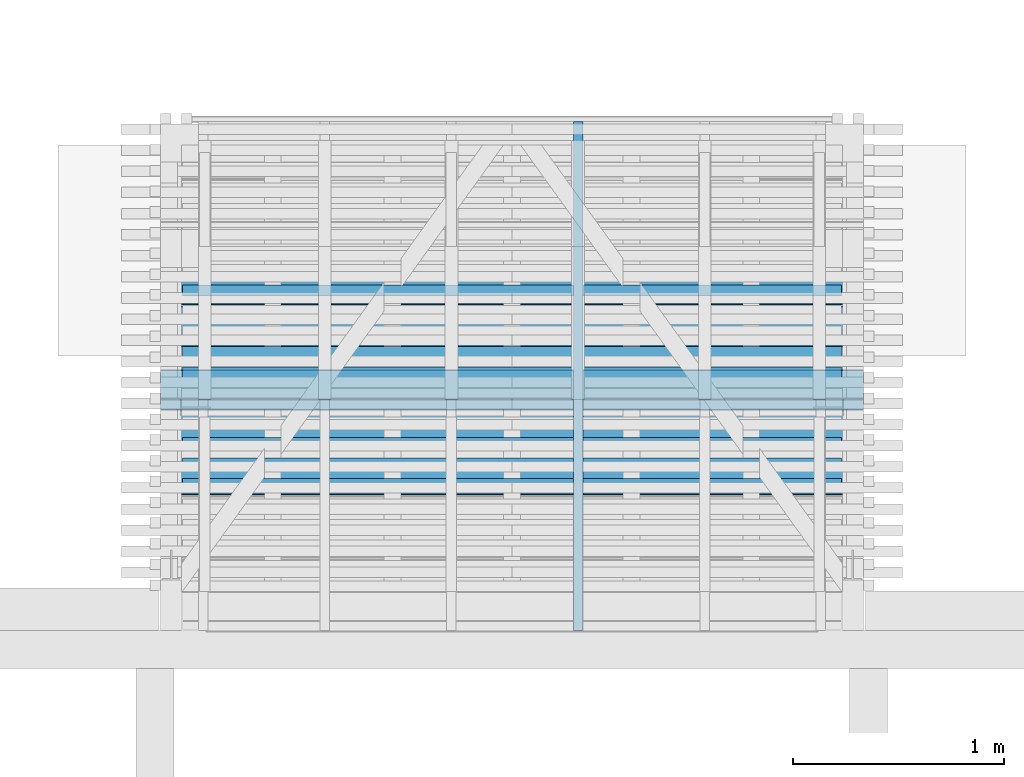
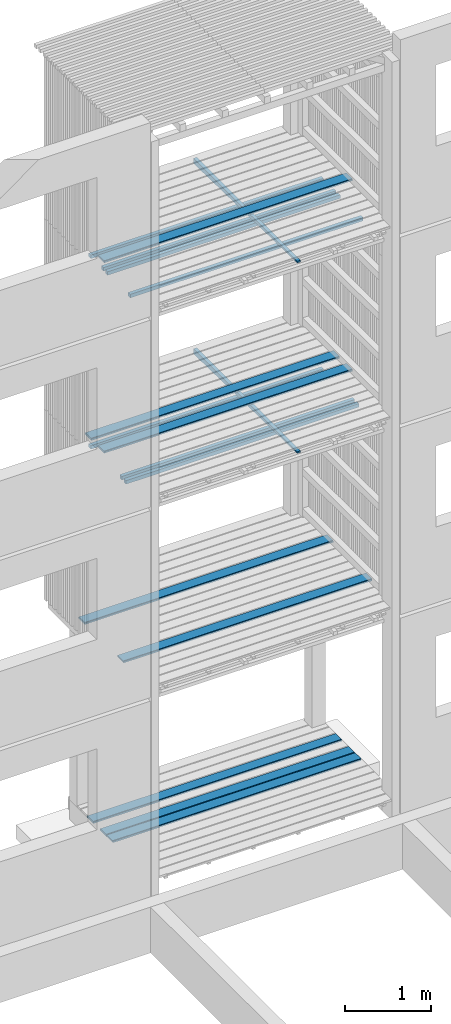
# One storey, part 97 of 182: 17 beams.
"""IFC2X3 building model written with IfcOpenShell, lengths in metres."""

from ifc_helpers import new_model, si_unit, frame, origin, place, context, project, spatial, faceted_brep, element, save


model = new_model("IFC2X3")

# Units and contexts
model_context = context("Model", 3, precision=1e-06, world=origin())
ifc_project = project(units=[si_unit("LENGTHUNIT", "METRE"), si_unit("PLANEANGLEUNIT", "RADIAN")], contexts=[model_context])

# Site, building, storey
site = spatial("IfcSite", under=ifc_project, CompositionType="ELEMENT")
building = spatial("IfcBuilding", under=site, CompositionType="ELEMENT")
storey = spatial("IfcBuildingStorey", under=building, Name="vs", CompositionType="ELEMENT", Elevation=-0.85)

# Beams
placement = place(None, origin())
beam_1_placement = place(placement, frame((46.345401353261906, 6.284577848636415, 0.033500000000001), z_axis=(0.0, 0.0, 1.0), x_axis=(-1.0, -1e-15, 0.0)))
element("IfcBeam", 1, at=beam_1_placement, inside=storey, Name="Caillebotis", context=model_context, shape_type="Brep", body=[
    faceted_brep([(3.329999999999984, -0.067500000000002, 0.0135), (3.329999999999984, -0.072500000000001, 0.008500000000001), (3.329999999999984, -0.072500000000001, -0.013500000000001), (3.329999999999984, 0.072499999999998, -0.013500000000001), (3.329999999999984, 0.072499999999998, 0.0085), (3.329999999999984, 0.067499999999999, 0.0135), (0.0, 0.0675, 0.0135), (0.0, 0.072500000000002, 0.0085), (0.0, 0.072500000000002, -0.013500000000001), (0.0, -0.072500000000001, -0.013500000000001), (0.0, -0.072500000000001, 0.008500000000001), (0.0, -0.067499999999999, 0.0135), (3.329999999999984, -0.072500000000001, -0.013500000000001), (3.329999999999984, -0.072500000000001, 0.008500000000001), (0.0, -0.072500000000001, 0.008500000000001), (0.0, -0.072500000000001, -0.013500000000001), (3.329999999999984, 0.072499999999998, -0.013500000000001), (3.329999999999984, -0.072500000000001, -0.013500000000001), (0.0, -0.072500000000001, -0.013500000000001), (0.0, 0.072500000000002, -0.013500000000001), (3.329999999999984, 0.072499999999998, 0.0085), (3.329999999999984, 0.072499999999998, -0.013500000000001), (0.0, 0.072500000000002, -0.013500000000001), (0.0, 0.072500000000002, 0.0085), (3.329999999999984, 0.067499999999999, 0.0135), (3.329999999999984, 0.072499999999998, 0.0085), (0.0, 0.072500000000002, 0.0085), (0.0, 0.0675, 0.0135), (3.329999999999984, -0.067500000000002, 0.0135), (3.329999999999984, 0.067499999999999, 0.0135), (0.0, 0.0675, 0.0135), (0.0, -0.067499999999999, 0.0135), (0.0, -0.072500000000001, 0.008500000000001), (3.329999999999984, -0.072500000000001, 0.008500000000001), (3.329999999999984, -0.067500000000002, 0.0135), (0.0, -0.067499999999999, 0.0135)], [[[0, 1, 2, 3, 4, 5]], [[6, 7, 8, 9, 10, 11]], [[12, 13, 14, 15]], [[16, 17, 18, 19]], [[20, 21, 22, 23]], [[24, 25, 26, 27]], [[28, 29, 30, 31]], [[32, 33, 34, 35]]]),
])
beam_2_placement = place(placement, frame((46.345401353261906, 5.984577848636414, 0.033500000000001), z_axis=(0.0, 0.0, 1.0), x_axis=(-1.0, 0.0, 0.0)))
element("IfcBeam", 2, at=beam_2_placement, inside=storey, Name="Caillebotis", context=model_context, shape_type="Brep", body=[
    faceted_brep([(3.329999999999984, -0.067500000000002, 0.0135), (3.329999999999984, -0.072499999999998, 0.008500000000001), (3.329999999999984, -0.072499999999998, -0.013500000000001), (3.329999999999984, 0.072500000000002, -0.013500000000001), (3.329999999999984, 0.072499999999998, 0.0085), (3.329999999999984, 0.067500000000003, 0.0135), (0.0, 0.067500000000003, 0.0135), (0.0, 0.072499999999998, 0.0085), (0.0, 0.072499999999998, -0.013500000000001), (0.0, -0.072500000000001, -0.013500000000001), (0.0, -0.072500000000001, 0.008500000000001), (0.0, -0.067500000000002, 0.0135), (3.329999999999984, -0.072499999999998, -0.013500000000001), (3.329999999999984, -0.072499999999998, 0.008500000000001), (0.0, -0.072500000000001, 0.008500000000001), (0.0, -0.072500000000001, -0.013500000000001), (3.329999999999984, 0.072500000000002, -0.013500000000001), (3.329999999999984, -0.072499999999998, -0.013500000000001), (0.0, -0.072500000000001, -0.013500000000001), (0.0, 0.072499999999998, -0.013500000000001), (3.329999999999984, 0.072499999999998, 0.0085), (3.329999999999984, 0.072500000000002, -0.013500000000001), (0.0, 0.072499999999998, -0.013500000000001), (0.0, 0.072499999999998, 0.0085), (3.329999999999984, 0.067500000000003, 0.0135), (3.329999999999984, 0.072499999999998, 0.0085), (0.0, 0.072499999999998, 0.0085), (0.0, 0.067500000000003, 0.0135), (3.329999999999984, -0.067500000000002, 0.0135), (3.329999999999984, 0.067500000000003, 0.0135), (0.0, 0.067500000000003, 0.0135), (0.0, -0.067500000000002, 0.0135), (0.0, -0.072500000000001, 0.008500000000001), (3.329999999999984, -0.072499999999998, 0.008500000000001), (3.329999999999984, -0.067500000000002, 0.0135), (0.0, -0.067500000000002, 0.0135)], [[[0, 1, 2, 3, 4, 5]], [[6, 7, 8, 9, 10, 11]], [[12, 13, 14, 15]], [[16, 17, 18, 19]], [[20, 21, 22, 23]], [[24, 25, 26, 27]], [[28, 29, 30, 31]], [[32, 33, 34, 35]]]),
])
beam_3_placement = place(placement, frame((46.345401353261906, 5.834577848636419, 0.033500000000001), z_axis=(0.0, 0.0, 1.0), x_axis=(-1.0, 0.0, 0.0)))
element("IfcBeam", 3, at=beam_3_placement, inside=storey, Name="Caillebotis", context=model_context, shape_type="Brep", body=[
    faceted_brep([(3.329999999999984, -0.067499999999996, 0.0135), (3.329999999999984, -0.072499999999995, 0.008500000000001), (3.329999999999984, -0.072499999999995, -0.013500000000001), (3.329999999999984, 0.072500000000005, -0.013500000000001), (3.329999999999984, 0.072500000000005, 0.0085), (3.329999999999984, 0.067500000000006, 0.0135), (0.0, 0.067500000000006, 0.0135), (0.0, 0.072500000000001, 0.0085), (0.0, 0.072500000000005, -0.013500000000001), (0.0, -0.072499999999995, -0.013500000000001), (0.0, -0.072499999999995, 0.008500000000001), (0.0, -0.067499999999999, 0.0135), (3.329999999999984, -0.072499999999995, -0.013500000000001), (3.329999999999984, -0.072499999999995, 0.008500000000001), (0.0, -0.072499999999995, 0.008500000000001), (0.0, -0.072499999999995, -0.013500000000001), (3.329999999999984, 0.072500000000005, -0.013500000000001), (3.329999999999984, -0.072499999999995, -0.013500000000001), (0.0, -0.072499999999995, -0.013500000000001), (0.0, 0.072500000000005, -0.013500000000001), (3.329999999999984, 0.072500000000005, 0.0085), (3.329999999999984, 0.072500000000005, -0.013500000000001), (0.0, 0.072500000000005, -0.013500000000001), (0.0, 0.072500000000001, 0.0085), (3.329999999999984, 0.067500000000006, 0.0135), (3.329999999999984, 0.072500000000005, 0.0085), (0.0, 0.072500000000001, 0.0085), (0.0, 0.067500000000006, 0.0135), (3.329999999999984, -0.067499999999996, 0.0135), (3.329999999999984, 0.067500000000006, 0.0135), (0.0, 0.067500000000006, 0.0135), (0.0, -0.067499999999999, 0.0135), (0.0, -0.072499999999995, 0.008500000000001), (3.329999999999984, -0.072499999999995, 0.008500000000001), (3.329999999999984, -0.067499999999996, 0.0135), (0.0, -0.067499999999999, 0.0135)], [[[0, 1, 2, 3, 4, 5]], [[6, 7, 8, 9, 10, 11]], [[12, 13, 14, 15]], [[16, 17, 18, 19]], [[20, 21, 22, 23]], [[24, 25, 26, 27]], [[28, 29, 30, 31]], [[32, 33, 34, 35]]]),
])
beam_4_placement = place(placement, frame((44.993401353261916, 4.870077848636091, 5.384400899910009), z_axis=(0.0, 0.0, 1.0), x_axis=(0.0, 1.0, 0.0)))
element("IfcBeam", 4, at=beam_4_placement, inside=storey, Name="Calage", context=model_context, shape_type="Brep", body=[
    faceted_brep([(2.410000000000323, -0.022499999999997, -0.035599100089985), (0.0, -0.022499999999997, 0.012600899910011), (0.0, 0.022500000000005, 0.012600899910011), (2.410000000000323, 0.02249999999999, -0.035599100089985), (0.0, 0.022500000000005, 0.035599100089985), (0.0, 0.022500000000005, 0.012600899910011), (0.0, -0.022499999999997, 0.012600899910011), (0.0, -0.022499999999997, 0.035599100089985), (2.410000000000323, 0.02249999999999, -0.035599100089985), (0.0, 0.022500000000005, 0.012600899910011), (0.0, 0.022500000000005, 0.035599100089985), (2.410000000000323, 0.022500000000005, 0.035599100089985), (2.410000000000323, -0.022499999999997, 0.035599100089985), (0.0, -0.022499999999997, 0.035599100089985), (0.0, -0.022499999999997, 0.012600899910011), (2.410000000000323, -0.022499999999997, -0.035599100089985), (2.410000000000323, 0.022500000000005, 0.035599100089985), (0.0, 0.022500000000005, 0.035599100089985), (0.0, -0.022499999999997, 0.035599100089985), (2.410000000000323, -0.022499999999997, 0.035599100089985), (2.410000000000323, 0.02249999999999, -0.035599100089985), (2.410000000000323, 0.022500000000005, 0.035599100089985), (2.410000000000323, -0.022499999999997, 0.035599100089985), (2.410000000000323, -0.022499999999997, -0.035599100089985)], [[[0, 1, 2, 3]], [[4, 5, 6, 7]], [[8, 9, 10, 11]], [[12, 13, 14, 15]], [[16, 17, 18, 19]], [[20, 21, 22, 23]]]),
])
beam_5_placement = place(placement, frame((46.345401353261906, 6.034577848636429, 5.433499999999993), z_axis=(0.0, 0.0, 1.0), x_axis=(-1.0, -1e-14, 0.0)))
element("IfcBeam", 5, at=beam_5_placement, inside=storey, Name="Caillebotis", context=model_context, shape_type="Brep", body=[
    faceted_brep([(3.329999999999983, -0.072500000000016, -0.0135), (3.329999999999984, 0.072499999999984, -0.0135), (3.329999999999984, 0.072499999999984, 0.0085), (3.329999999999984, 0.067499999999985, 0.0135), (3.329999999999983, -0.067500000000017, 0.0135), (3.329999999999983, -0.072500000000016, 0.008500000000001), (-1.5e-14, -0.072499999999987, 0.008500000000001), (-1.5e-14, -0.067499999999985, 0.0135), (-1.4e-14, 0.067500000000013, 0.0135), (-1.4e-14, 0.072500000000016, 0.0085), (-1.4e-14, 0.072500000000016, -0.0135), (-1.5e-14, -0.072499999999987, -0.0135), (3.329999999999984, 0.072499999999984, 0.0085), (3.329999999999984, 0.072499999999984, -0.0135), (-1.4e-14, 0.072500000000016, -0.0135), (-1.4e-14, 0.072500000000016, 0.0085), (3.329999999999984, 0.067499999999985, 0.0135), (3.329999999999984, 0.072499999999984, 0.0085), (-1.4e-14, 0.072500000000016, 0.0085), (-1.4e-14, 0.067500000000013, 0.0135), (3.329999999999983, -0.067500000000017, 0.0135), (3.329999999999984, 0.067499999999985, 0.0135), (-1.4e-14, 0.067500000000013, 0.0135), (-1.5e-14, -0.067499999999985, 0.0135), (3.329999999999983, -0.072500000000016, 0.008500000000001), (3.329999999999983, -0.067500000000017, 0.0135), (-1.5e-14, -0.067499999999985, 0.0135), (-1.5e-14, -0.072499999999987, 0.008500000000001), (3.329999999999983, -0.072500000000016, -0.0135), (3.329999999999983, -0.072500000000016, 0.008500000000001), (-1.5e-14, -0.072499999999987, 0.008500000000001), (-1.5e-14, -0.072499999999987, -0.0135), (-1.4e-14, 0.072500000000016, -0.0135), (3.329999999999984, 0.072499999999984, -0.0135), (3.329999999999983, -0.072500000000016, -0.0135), (-1.5e-14, -0.072499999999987, -0.0135)], [[[0, 1, 2, 3, 4, 5]], [[6, 7, 8, 9, 10, 11]], [[12, 13, 14, 15]], [[16, 17, 18, 19]], [[20, 21, 22, 23]], [[24, 25, 26, 27]], [[28, 29, 30, 31]], [[32, 33, 34, 35]]]),
])
beam_6_placement = place(placement, frame((46.240401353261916, 5.564452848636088, 7.867999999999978), z_axis=(0.0, 0.0, 1.0), x_axis=(-1.0, 0.0, 0.0)))
element("IfcBeam", 6, at=beam_6_placement, inside=storey, Name="Bardage", context=model_context, shape_type="Brep", body=[
    faceted_brep([(3.120000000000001, 0.025000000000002, -0.025000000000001), (3.120000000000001, -0.024999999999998, -0.025000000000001), (-3e-15, -0.024999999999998, -0.025000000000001), (-3e-15, 0.024999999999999, -0.025000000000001), (-3e-15, -0.024999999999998, -0.025000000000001), (3.120000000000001, -0.024999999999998, -0.025000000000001), (3.120000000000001, -0.024999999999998, 0.024999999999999), (-3e-15, -0.024999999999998, 0.024999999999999), (3.120000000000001, -0.024999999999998, -0.025000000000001), (3.120000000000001, 0.025000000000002, -0.025000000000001), (3.120000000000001, 0.025000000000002, 0.024999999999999), (3.120000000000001, -0.024999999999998, 0.024999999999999), (3.120000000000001, 0.025000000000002, 0.024999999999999), (3.120000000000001, 0.025000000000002, -0.025000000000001), (-3e-15, 0.024999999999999, -0.025000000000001), (-3e-15, 0.024999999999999, 0.024999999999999), (-3e-15, -0.024999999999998, 0.024999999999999), (3.120000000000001, -0.024999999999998, 0.024999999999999), (3.120000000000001, 0.025000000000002, 0.024999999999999), (-3e-15, 0.024999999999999, 0.024999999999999), (-3e-15, -0.024999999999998, -0.025000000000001), (-3e-15, -0.024999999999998, 0.024999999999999), (-3e-15, 0.024999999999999, 0.024999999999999), (-3e-15, 0.024999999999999, -0.025000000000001)], [[[0, 1, 2, 3]], [[4, 5, 6, 7]], [[8, 9, 10, 11]], [[12, 13, 14, 15]], [[16, 17, 18, 19]], [[20, 21, 22, 23]]]),
])
beam_7_placement = place(placement, frame((46.345401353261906, 6.484577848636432, 2.733499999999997), z_axis=(0.0, 0.0, 1.0), x_axis=(-1.0, -1e-14, 0.0)))
element("IfcBeam", 7, at=beam_7_placement, inside=storey, Name="Caillebotis", context=model_context, shape_type="Brep", body=[
    faceted_brep([(3.329999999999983, -0.072500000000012, -0.013499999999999), (3.329999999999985, 0.072499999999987, -0.013499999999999), (3.329999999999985, 0.072499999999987, 0.0085), (3.329999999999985, 0.067499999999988, 0.013500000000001), (3.329999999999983, -0.067500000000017, 0.013500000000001), (3.329999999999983, -0.072500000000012, 0.008500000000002), (-1.5e-14, -0.072499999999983, 0.008500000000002), (-1.5e-14, -0.067499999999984, 0.013500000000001), (-1.4e-14, 0.067500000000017, 0.0135), (-1.4e-14, 0.072500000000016, 0.008500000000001), (-1.4e-14, 0.072500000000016, -0.013499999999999), (-1.5e-14, -0.072499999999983, -0.013499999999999), (3.329999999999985, 0.072499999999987, 0.0085), (3.329999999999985, 0.072499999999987, -0.013499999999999), (-1.4e-14, 0.072500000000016, -0.013499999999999), (-1.4e-14, 0.072500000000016, 0.008500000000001), (3.329999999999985, 0.067499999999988, 0.013500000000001), (3.329999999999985, 0.072499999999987, 0.0085), (-1.4e-14, 0.072500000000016, 0.008500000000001), (-1.4e-14, 0.067500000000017, 0.0135), (3.329999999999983, -0.067500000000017, 0.013500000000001), (3.329999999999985, 0.067499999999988, 0.013500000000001), (-1.4e-14, 0.067500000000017, 0.0135), (-1.5e-14, -0.067499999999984, 0.013500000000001), (3.329999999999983, -0.072500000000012, 0.008500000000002), (3.329999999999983, -0.067500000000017, 0.013500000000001), (-1.5e-14, -0.067499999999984, 0.013500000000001), (-1.5e-14, -0.072499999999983, 0.008500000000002), (3.329999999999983, -0.072500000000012, -0.013499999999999), (3.329999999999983, -0.072500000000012, 0.008500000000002), (-1.5e-14, -0.072499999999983, 0.008500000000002), (-1.5e-14, -0.072499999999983, -0.013499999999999), (-1.4e-14, 0.072500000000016, -0.013499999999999), (3.329999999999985, 0.072499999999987, -0.013499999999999), (3.329999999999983, -0.072500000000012, -0.013499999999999), (-1.5e-14, -0.072499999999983, -0.013499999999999)], [[[0, 1, 2, 3, 4, 5]], [[6, 7, 8, 9, 10, 11]], [[12, 13, 14, 15]], [[16, 17, 18, 19]], [[20, 21, 22, 23]], [[24, 25, 26, 27]], [[28, 29, 30, 31]], [[32, 33, 34, 35]]]),
])
beam_8_placement = place(placement, frame((46.240401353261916, 6.480494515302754, 7.86739999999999), z_axis=(0.0, 0.0, 1.0), x_axis=(-1.0, 0.0, 0.0)))
element("IfcBeam", 8, at=beam_8_placement, inside=storey, Name="Bardage", context=model_context, shape_type="Brep", body=[
    faceted_brep([(3.120000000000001, 0.024999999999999, -0.024999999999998), (3.120000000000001, 0.024999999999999, 0.025000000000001), (3.120000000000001, -0.024999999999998, 0.025000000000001), (3.120000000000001, -0.024999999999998, -0.024999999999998), (-3e-15, -0.025000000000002, -0.024999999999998), (-3e-15, -0.025000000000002, 0.025000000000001), (-3e-15, 0.024999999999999, 0.025000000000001), (-3e-15, 0.024999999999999, -0.024999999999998), (-3e-15, 0.024999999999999, -0.024999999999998), (-3e-15, 0.024999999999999, 0.025000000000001), (3.120000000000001, 0.024999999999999, 0.025000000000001), (3.120000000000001, 0.024999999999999, -0.024999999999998), (-3e-15, 0.024999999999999, 0.025000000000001), (-3e-15, -0.025000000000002, 0.025000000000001), (3.120000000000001, -0.024999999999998, 0.025000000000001), (3.120000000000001, 0.024999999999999, 0.025000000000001), (-3e-15, -0.025000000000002, 0.025000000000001), (-3e-15, -0.025000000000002, -0.024999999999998), (3.120000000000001, -0.024999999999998, -0.024999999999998), (3.120000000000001, -0.024999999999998, 0.025000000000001), (-3e-15, -0.025000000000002, -0.024999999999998), (-3e-15, 0.024999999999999, -0.024999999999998), (3.120000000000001, 0.024999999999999, -0.024999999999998), (3.120000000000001, -0.024999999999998, -0.024999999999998)], [[[0, 1, 2, 3]], [[4, 5, 6, 7]], [[8, 9, 10, 11]], [[12, 13, 14, 15]], [[16, 17, 18, 19]], [[20, 21, 22, 23]]]),
])
beam_9_placement = place(placement, frame((46.240401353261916, 6.092161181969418, 7.86739999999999), z_axis=(0.0, 0.0, 1.0), x_axis=(-1.0, 0.0, 0.0)))
element("IfcBeam", 9, at=beam_9_placement, inside=storey, Name="Bardage", context=model_context, shape_type="Brep", body=[
    faceted_brep([(3.120000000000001, 0.024999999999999, -0.024999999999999), (3.120000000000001, 0.024999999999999, 0.025000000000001), (3.120000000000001, -0.024999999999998, 0.025000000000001), (3.120000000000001, -0.024999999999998, -0.024999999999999), (-3e-15, -0.025000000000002, -0.024999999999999), (-3e-15, -0.025000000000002, 0.025000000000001), (-3e-15, 0.024999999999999, 0.025000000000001), (-3e-15, 0.024999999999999, -0.024999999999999), (-3e-15, 0.024999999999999, -0.024999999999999), (-3e-15, 0.024999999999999, 0.025000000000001), (3.120000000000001, 0.024999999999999, 0.025000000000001), (3.120000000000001, 0.024999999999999, -0.024999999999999), (-3e-15, 0.024999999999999, 0.025000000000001), (-3e-15, -0.025000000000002, 0.025000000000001), (3.120000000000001, -0.024999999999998, 0.025000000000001), (3.120000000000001, 0.024999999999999, 0.025000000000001), (-3e-15, -0.025000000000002, 0.025000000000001), (-3e-15, -0.025000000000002, -0.024999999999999), (3.120000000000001, -0.024999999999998, -0.024999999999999), (3.120000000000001, -0.024999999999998, 0.025000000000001), (-3e-15, -0.025000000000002, -0.024999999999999), (-3e-15, 0.024999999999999, -0.024999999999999), (3.120000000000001, 0.024999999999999, -0.024999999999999), (3.120000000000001, -0.024999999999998, -0.024999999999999)], [[[0, 1, 2, 3]], [[4, 5, 6, 7]], [[8, 9, 10, 11]], [[12, 13, 14, 15]], [[16, 17, 18, 19]], [[20, 21, 22, 23]]]),
])
beam_10_placement = place(placement, frame((46.240401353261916, 5.758202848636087, 5.167999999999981), z_axis=(0.0, 0.0, 1.0), x_axis=(-1.0, -1e-15, 0.0)))
element("IfcBeam", 10, at=beam_10_placement, inside=storey, Name="Bardage", context=model_context, shape_type="Brep", body=[
    faceted_brep([(3.120000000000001, 0.024999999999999, -0.025), (3.120000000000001, -0.025000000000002, -0.025), (-3e-15, -0.025000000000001, -0.025), (-3e-15, 0.025000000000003, -0.025), (-3e-15, -0.025000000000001, -0.025), (3.120000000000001, -0.025000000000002, -0.025), (3.120000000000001, -0.025000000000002, 0.025000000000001), (-3e-15, -0.025000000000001, 0.025000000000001), (3.120000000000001, -0.025000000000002, -0.025), (3.120000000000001, 0.024999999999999, -0.025), (3.120000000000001, 0.024999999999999, 0.025000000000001), (3.120000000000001, -0.025000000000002, 0.025000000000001), (3.120000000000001, 0.024999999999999, 0.025000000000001), (3.120000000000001, 0.024999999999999, -0.025), (-3e-15, 0.025000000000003, -0.025), (-3e-15, 0.025000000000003, 0.025000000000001), (-3e-15, -0.025000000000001, 0.025000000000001), (3.120000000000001, -0.025000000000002, 0.025000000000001), (3.120000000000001, 0.024999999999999, 0.025000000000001), (-3e-15, 0.025000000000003, 0.025000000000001), (-3e-15, -0.025000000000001, -0.025), (-3e-15, -0.025000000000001, 0.025000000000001), (-3e-15, 0.025000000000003, 0.025000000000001), (-3e-15, 0.025000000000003, -0.025)], [[[0, 1, 2, 3]], [[4, 5, 6, 7]], [[8, 9, 10, 11]], [[12, 13, 14, 15]], [[16, 17, 18, 19]], [[20, 21, 22, 23]]]),
])
beam_11_placement = place(placement, frame((46.240401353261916, 6.480494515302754, 5.167399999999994), z_axis=(0.0, 0.0, 1.0), x_axis=(-1.0, 0.0, 0.0)))
element("IfcBeam", 11, at=beam_11_placement, inside=storey, Name="Bardage", context=model_context, shape_type="Brep", body=[
    faceted_brep([(3.120000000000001, 0.024999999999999, -0.024999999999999), (3.120000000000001, 0.024999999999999, 0.024999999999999), (3.120000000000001, -0.024999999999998, 0.024999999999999), (3.120000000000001, -0.024999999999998, -0.024999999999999), (-3e-15, -0.025000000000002, -0.024999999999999), (-3e-15, -0.025000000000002, 0.024999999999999), (-3e-15, 0.024999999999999, 0.024999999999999), (-3e-15, 0.024999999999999, -0.024999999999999), (-3e-15, 0.024999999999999, -0.024999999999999), (-3e-15, 0.024999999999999, 0.024999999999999), (3.120000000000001, 0.024999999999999, 0.024999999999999), (3.120000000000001, 0.024999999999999, -0.024999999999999), (-3e-15, 0.024999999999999, 0.024999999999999), (-3e-15, -0.025000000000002, 0.024999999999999), (3.120000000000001, -0.024999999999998, 0.024999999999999), (3.120000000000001, 0.024999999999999, 0.024999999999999), (-3e-15, -0.025000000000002, 0.024999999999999), (-3e-15, -0.025000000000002, -0.024999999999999), (3.120000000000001, -0.024999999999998, -0.024999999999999), (3.120000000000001, -0.024999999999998, 0.024999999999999), (-3e-15, -0.025000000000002, -0.024999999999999), (-3e-15, 0.024999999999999, -0.024999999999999), (3.120000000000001, 0.024999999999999, -0.024999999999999), (3.120000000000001, -0.024999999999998, -0.024999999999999)], [[[0, 1, 2, 3]], [[4, 5, 6, 7]], [[8, 9, 10, 11]], [[12, 13, 14, 15]], [[16, 17, 18, 19]], [[20, 21, 22, 23]]]),
])
beam_12_placement = place(placement, frame((46.345401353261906, 6.33457784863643, 5.433499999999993), z_axis=(0.0, 0.0, 1.0), x_axis=(-1.0, -8e-15, 0.0)))
element("IfcBeam", 12, at=beam_12_placement, inside=storey, Name="Caillebotis", context=model_context, shape_type="Brep", body=[
    faceted_brep([(3.329999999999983, -0.072500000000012, -0.0135), (3.329999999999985, 0.072499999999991, -0.0135), (3.329999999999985, 0.072499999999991, 0.0085), (3.329999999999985, 0.067499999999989, 0.0135), (3.329999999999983, -0.067500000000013, 0.0135), (3.329999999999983, -0.072500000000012, 0.008500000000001), (-1.5e-14, -0.072499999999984, 0.008500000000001), (-1.5e-14, -0.067499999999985, 0.0135), (-1.4e-14, 0.067500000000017, 0.0135), (-1.4e-14, 0.072500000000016, 0.0085), (-1.4e-14, 0.072500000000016, -0.0135), (-1.5e-14, -0.072499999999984, -0.0135), (3.329999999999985, 0.072499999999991, 0.0085), (3.329999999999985, 0.072499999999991, -0.0135), (-1.4e-14, 0.072500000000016, -0.0135), (-1.4e-14, 0.072500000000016, 0.0085), (3.329999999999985, 0.067499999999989, 0.0135), (3.329999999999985, 0.072499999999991, 0.0085), (-1.4e-14, 0.072500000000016, 0.0085), (-1.4e-14, 0.067500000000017, 0.0135), (3.329999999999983, -0.067500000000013, 0.0135), (3.329999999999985, 0.067499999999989, 0.0135), (-1.4e-14, 0.067500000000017, 0.0135), (-1.5e-14, -0.067499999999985, 0.0135), (3.329999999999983, -0.072500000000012, 0.008500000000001), (3.329999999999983, -0.067500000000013, 0.0135), (-1.5e-14, -0.067499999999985, 0.0135), (-1.5e-14, -0.072499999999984, 0.008500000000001), (3.329999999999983, -0.072500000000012, -0.0135), (3.329999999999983, -0.072500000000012, 0.008500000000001), (-1.5e-14, -0.072499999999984, 0.008500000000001), (-1.5e-14, -0.072499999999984, -0.0135), (-1.4e-14, 0.072500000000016, -0.0135), (3.329999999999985, 0.072499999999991, -0.0135), (3.329999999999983, -0.072500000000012, -0.0135), (-1.5e-14, -0.072499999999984, -0.0135)], [[[0, 1, 2, 3, 4, 5]], [[6, 7, 8, 9, 10, 11]], [[12, 13, 14, 15]], [[16, 17, 18, 19]], [[20, 21, 22, 23]], [[24, 25, 26, 27]], [[28, 29, 30, 31]], [[32, 33, 34, 35]]]),
])
beam_13_placement = place(placement, frame((46.34540135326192, 6.034577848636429, 8.13349999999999), z_axis=(0.0, 0.0, 1.0), x_axis=(-1.0, -1e-14, 0.0)))
element("IfcBeam", 13, at=beam_13_placement, inside=storey, Name="Caillebotis", context=model_context, shape_type="Brep", body=[
    faceted_brep([(3.329999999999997, -0.072500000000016, -0.013500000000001), (3.329999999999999, 0.072499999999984, -0.013500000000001), (3.329999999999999, 0.072499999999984, 0.008499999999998), (3.329999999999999, 0.067499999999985, 0.013499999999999), (3.329999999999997, -0.067500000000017, 0.013499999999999), (3.329999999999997, -0.072500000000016, 0.0085), (-1e-15, -0.072499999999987, 0.0085), (-1e-15, -0.067499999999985, 0.013499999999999), (1e-15, 0.067500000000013, 0.013499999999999), (1e-15, 0.072500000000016, 0.008499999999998), (1e-15, 0.072500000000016, -0.013500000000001), (-1e-15, -0.072499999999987, -0.013500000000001), (3.329999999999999, 0.072499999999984, 0.008499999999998), (3.329999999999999, 0.072499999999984, -0.013500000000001), (1e-15, 0.072500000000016, -0.013500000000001), (1e-15, 0.072500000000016, 0.008499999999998), (3.329999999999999, 0.067499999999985, 0.013499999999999), (3.329999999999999, 0.072499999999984, 0.008499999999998), (1e-15, 0.072500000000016, 0.008499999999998), (1e-15, 0.067500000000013, 0.013499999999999), (3.329999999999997, -0.067500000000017, 0.013499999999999), (3.329999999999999, 0.067499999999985, 0.013499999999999), (1e-15, 0.067500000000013, 0.013499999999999), (-1e-15, -0.067499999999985, 0.013499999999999), (3.329999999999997, -0.072500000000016, 0.0085), (3.329999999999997, -0.067500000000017, 0.013499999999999), (-1e-15, -0.067499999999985, 0.013499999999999), (-1e-15, -0.072499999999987, 0.0085), (3.329999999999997, -0.072500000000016, -0.013500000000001), (3.329999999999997, -0.072500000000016, 0.0085), (-1e-15, -0.072499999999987, 0.0085), (-1e-15, -0.072499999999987, -0.013500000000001), (1e-15, 0.072500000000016, -0.013500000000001), (3.329999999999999, 0.072499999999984, -0.013500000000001), (3.329999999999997, -0.072500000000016, -0.013500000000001), (-1e-15, -0.072499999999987, -0.013500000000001)], [[[0, 1, 2, 3, 4, 5]], [[6, 7, 8, 9, 10, 11]], [[12, 13, 14, 15]], [[16, 17, 18, 19]], [[20, 21, 22, 23]], [[24, 25, 26, 27]], [[28, 29, 30, 31]], [[32, 33, 34, 35]]]),
])
beam_14_placement = place(placement, frame((46.34540135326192, 5.584577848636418, 2.733499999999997), z_axis=(0.0, 0.0, 1.0), x_axis=(-1.0, 0.0, 0.0)))
element("IfcBeam", 14, at=beam_14_placement, inside=storey, Name="Caillebotis", context=model_context, shape_type="Brep", body=[
    faceted_brep([(3.329999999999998, -0.072499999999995, -0.0135), (3.329999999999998, 0.072500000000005, -0.0135), (3.329999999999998, 0.072500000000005, 0.0085), (3.329999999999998, 0.067500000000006, 0.0135), (3.329999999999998, -0.067499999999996, 0.0135), (3.329999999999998, -0.072499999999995, 0.008500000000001), (0.0, -0.072499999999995, 0.008500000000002), (0.0, -0.067499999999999, 0.0135), (0.0, 0.067500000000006, 0.0135), (0.0, 0.072500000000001, 0.0085), (0.0, 0.072500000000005, -0.0135), (0.0, -0.072499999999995, -0.0135), (3.329999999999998, 0.072500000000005, 0.0085), (3.329999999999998, 0.072500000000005, -0.0135), (0.0, 0.072500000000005, -0.0135), (0.0, 0.072500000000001, 0.0085), (3.329999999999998, 0.067500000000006, 0.0135), (3.329999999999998, 0.072500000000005, 0.0085), (0.0, 0.072500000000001, 0.0085), (0.0, 0.067500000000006, 0.0135), (3.329999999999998, -0.067499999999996, 0.0135), (3.329999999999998, 0.067500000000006, 0.0135), (0.0, 0.067500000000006, 0.0135), (0.0, -0.067499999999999, 0.0135), (3.329999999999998, -0.072499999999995, 0.008500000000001), (3.329999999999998, -0.067499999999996, 0.0135), (0.0, -0.067499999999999, 0.0135), (0.0, -0.072499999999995, 0.008500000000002), (3.329999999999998, -0.072499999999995, -0.0135), (3.329999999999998, -0.072499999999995, 0.008500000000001), (0.0, -0.072499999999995, 0.008500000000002), (0.0, -0.072499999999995, -0.0135), (0.0, 0.072500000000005, -0.0135), (3.329999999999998, 0.072500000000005, -0.0135), (3.329999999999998, -0.072499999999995, -0.0135), (0.0, -0.072499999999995, -0.0135)], [[[0, 1, 2, 3, 4, 5]], [[6, 7, 8, 9, 10, 11]], [[12, 13, 14, 15]], [[16, 17, 18, 19]], [[20, 21, 22, 23]], [[24, 25, 26, 27]], [[28, 29, 30, 31]], [[32, 33, 34, 35]]]),
])
beam_15_placement = place(placement, frame((46.240401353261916, 6.189244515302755, 7.86739999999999), z_axis=(0.0, 0.0, 1.0), x_axis=(-1.0, 0.0, 0.0)))
element("IfcBeam", 15, at=beam_15_placement, inside=storey, Name="Bardage", context=model_context, shape_type="Brep", body=[
    faceted_brep([(3.120000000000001, 0.025000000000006, -0.024999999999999), (3.120000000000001, 0.025000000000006, 0.025000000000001), (3.120000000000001, -0.024999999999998, 0.025000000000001), (3.120000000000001, -0.024999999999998, -0.024999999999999), (-3e-15, -0.024999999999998, -0.024999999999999), (-3e-15, -0.024999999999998, 0.025000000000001), (-3e-15, 0.025000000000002, 0.025000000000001), (-3e-15, 0.025000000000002, -0.024999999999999), (-3e-15, 0.025000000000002, -0.024999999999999), (-3e-15, 0.025000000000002, 0.025000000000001), (3.120000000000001, 0.025000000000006, 0.025000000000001), (3.120000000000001, 0.025000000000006, -0.024999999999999), (-3e-15, 0.025000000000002, 0.025000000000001), (-3e-15, -0.024999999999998, 0.025000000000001), (3.120000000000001, -0.024999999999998, 0.025000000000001), (3.120000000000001, 0.025000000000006, 0.025000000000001), (-3e-15, -0.024999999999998, 0.025000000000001), (-3e-15, -0.024999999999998, -0.024999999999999), (3.120000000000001, -0.024999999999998, -0.024999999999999), (3.120000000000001, -0.024999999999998, 0.025000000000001), (-3e-15, -0.024999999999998, -0.024999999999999), (-3e-15, 0.025000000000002, -0.024999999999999), (3.120000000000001, 0.025000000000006, -0.024999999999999), (3.120000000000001, -0.024999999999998, -0.024999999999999)], [[[0, 1, 2, 3]], [[4, 5, 6, 7]], [[8, 9, 10, 11]], [[12, 13, 14, 15]], [[16, 17, 18, 19]], [[20, 21, 22, 23]]]),
])
beam_16_placement = place(placement, frame((44.993401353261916, 4.870077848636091, 8.084400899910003), z_axis=(0.0, 0.0, 1.0), x_axis=(0.0, 1.0, 0.0)))
element("IfcBeam", 16, at=beam_16_placement, inside=storey, Name="Calage", context=model_context, shape_type="Brep", body=[
    faceted_brep([(2.410000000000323, -0.022499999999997, -0.035599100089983), (0.0, -0.022499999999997, 0.012600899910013), (0.0, 0.02249999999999, 0.012600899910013), (2.410000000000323, 0.02249999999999, -0.035599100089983), (0.0, 0.02249999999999, 0.035599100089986), (0.0, 0.02249999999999, 0.012600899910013), (0.0, -0.022499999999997, 0.012600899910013), (0.0, -0.022499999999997, 0.035599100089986), (2.410000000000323, 0.02249999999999, -0.035599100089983), (0.0, 0.02249999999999, 0.012600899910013), (0.0, 0.02249999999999, 0.035599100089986), (2.410000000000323, 0.02249999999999, 0.035599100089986), (2.410000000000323, -0.022499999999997, 0.035599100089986), (0.0, -0.022499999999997, 0.035599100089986), (0.0, -0.022499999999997, 0.012600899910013), (2.410000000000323, -0.022499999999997, -0.035599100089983), (2.410000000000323, 0.02249999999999, 0.035599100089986), (0.0, 0.02249999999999, 0.035599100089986), (0.0, -0.022499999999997, 0.035599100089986), (2.410000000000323, -0.022499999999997, 0.035599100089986), (2.410000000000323, 0.02249999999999, -0.035599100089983), (2.410000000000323, 0.02249999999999, 0.035599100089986), (2.410000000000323, -0.022499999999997, 0.035599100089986), (2.410000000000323, -0.022499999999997, -0.035599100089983)], [[[0, 1, 2, 3]], [[4, 5, 6, 7]], [[8, 9, 10, 11]], [[12, 13, 14, 15]], [[16, 17, 18, 19]], [[20, 21, 22, 23]]]),
])
beam_17_placement = place(placement, frame((46.240401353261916, 5.661327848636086, 5.167999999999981), z_axis=(0.0, 0.0, 1.0), x_axis=(-1.0, 0.0, 0.0)))
element("IfcBeam", 17, at=beam_17_placement, inside=storey, Name="Bardage", context=model_context, shape_type="Brep", body=[
    faceted_brep([(3.120000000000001, 0.024999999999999, -0.025), (3.120000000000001, -0.024999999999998, -0.025), (-3e-15, -0.025000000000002, -0.025), (-3e-15, 0.024999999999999, -0.025), (-3e-15, -0.025000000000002, -0.025), (3.120000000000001, -0.024999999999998, -0.025), (3.120000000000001, -0.024999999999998, 0.025000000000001), (-3e-15, -0.025000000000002, 0.025000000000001), (3.120000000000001, -0.024999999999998, -0.025), (3.120000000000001, 0.024999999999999, -0.025), (3.120000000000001, 0.024999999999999, 0.025000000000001), (3.120000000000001, -0.024999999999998, 0.025000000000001), (3.120000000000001, 0.024999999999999, 0.025000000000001), (3.120000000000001, 0.024999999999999, -0.025), (-3e-15, 0.024999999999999, -0.025), (-3e-15, 0.024999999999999, 0.025000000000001), (-3e-15, -0.025000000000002, 0.025000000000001), (3.120000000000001, -0.024999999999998, 0.025000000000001), (3.120000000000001, 0.024999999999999, 0.025000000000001), (-3e-15, 0.024999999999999, 0.025000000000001), (-3e-15, -0.025000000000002, -0.025), (-3e-15, -0.025000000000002, 0.025000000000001), (-3e-15, 0.024999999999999, 0.025000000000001), (-3e-15, 0.024999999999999, -0.025)], [[[0, 1, 2, 3]], [[4, 5, 6, 7]], [[8, 9, 10, 11]], [[12, 13, 14, 15]], [[16, 17, 18, 19]], [[20, 21, 22, 23]]]),
])

save(model, "model.ifc")
